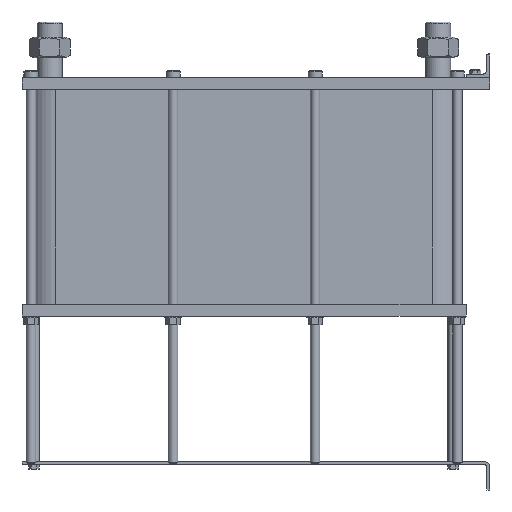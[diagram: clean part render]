
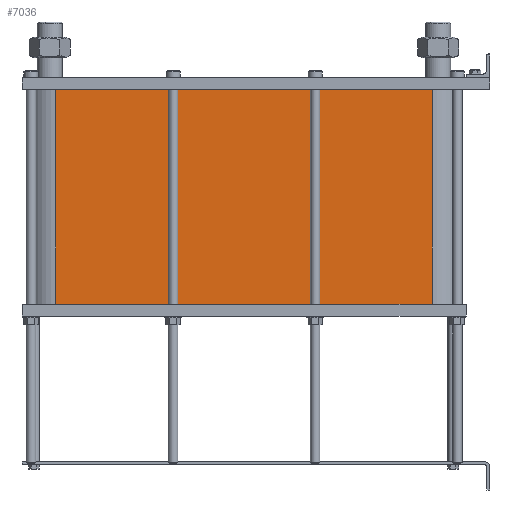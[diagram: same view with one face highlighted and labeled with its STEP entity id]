
A CAD part, left-side view. The second image highlights one B-rep face of the part: STEP entity #7036.
In plain terms, the highlighted planar face has unit normal (-1, 0, 0).
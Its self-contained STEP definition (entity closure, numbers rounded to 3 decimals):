
#999=LINE('',#15640,#1553);
#1031=LINE('',#15723,#1585);
#1032=LINE('',#15726,#1586);
#1033=LINE('',#15727,#1587);
#1553=VECTOR('',#9658,10.);
#1585=VECTOR('',#9736,10.);
#1586=VECTOR('',#9741,10.);
#1587=VECTOR('',#9742,10.);
#2117=FACE_OUTER_BOUND('',#2671,.T.);
#2671=EDGE_LOOP('',(#6246,#6247,#6248,#6249));
#3527=VERTEX_POINT('',#15634);
#3529=VERTEX_POINT('',#15638);
#3556=VERTEX_POINT('',#15720);
#3557=VERTEX_POINT('',#15722);
#4425=EDGE_CURVE('',#3529,#3527,#999,.T.);
#4466=EDGE_CURVE('',#3557,#3556,#1031,.T.);
#4468=EDGE_CURVE('',#3527,#3556,#1032,.T.);
#4469=EDGE_CURVE('',#3557,#3529,#1033,.T.);
#6246=ORIENTED_EDGE('',*,*,#4468,.F.);
#6247=ORIENTED_EDGE('',*,*,#4425,.F.);
#6248=ORIENTED_EDGE('',*,*,#4469,.F.);
#6249=ORIENTED_EDGE('',*,*,#4466,.T.);
#6608=PLANE('',#7812);
#7036=ADVANCED_FACE('',(#2117),#6608,.T.);
#7812=AXIS2_PLACEMENT_3D('',#15725,#9739,#9740);
#9658=DIRECTION('',(0.,0.,-1.));
#9736=DIRECTION('',(0.,0.,-1.));
#9739=DIRECTION('center_axis',(-1.,0.,0.));
#9740=DIRECTION('ref_axis',(0.,1.,0.));
#9741=DIRECTION('',(0.,1.,0.));
#9742=DIRECTION('',(0.,-1.,0.));
#15634=CARTESIAN_POINT('',(-72.,97.5,-362.7));
#15638=CARTESIAN_POINT('',(-72.,97.5,0.));
#15640=CARTESIAN_POINT('',(-72.,97.5,0.));
#15720=CARTESIAN_POINT('',(-72.,733.5,-362.7));
#15722=CARTESIAN_POINT('',(-72.,733.5,0.));
#15723=CARTESIAN_POINT('',(-72.,733.5,0.));
#15725=CARTESIAN_POINT('Origin',(-72.,97.5,0.));
#15726=CARTESIAN_POINT('',(-72.,256.5,-362.7));
#15727=CARTESIAN_POINT('',(-72.,733.5,0.));
